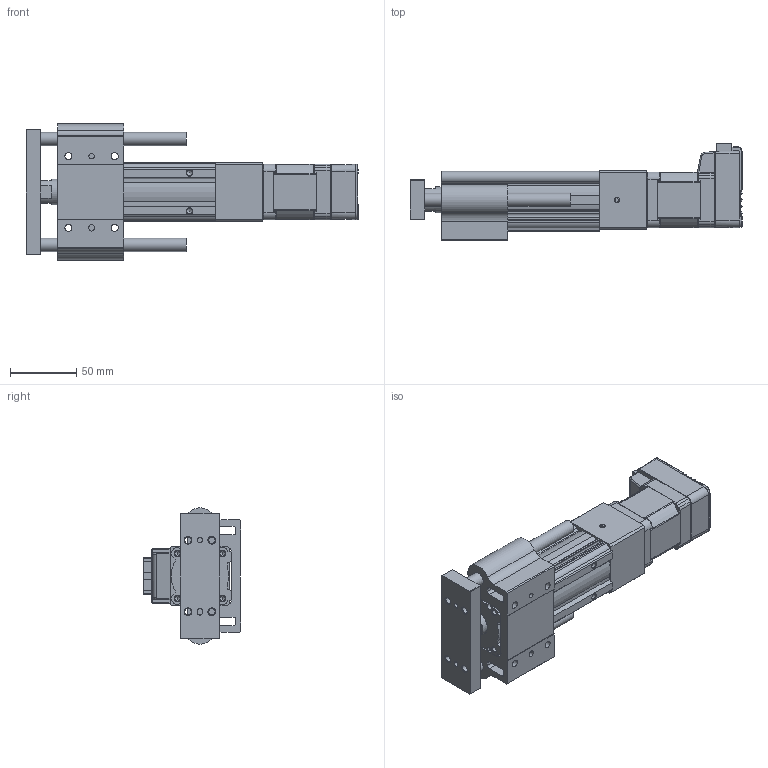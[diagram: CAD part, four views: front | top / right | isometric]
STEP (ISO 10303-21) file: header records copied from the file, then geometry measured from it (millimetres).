
FILE_DESCRIPTION (( 'STEP AP214' ), '1' );
FILE_NAME ('LEYG3(+)-25LDNM1□-30-17L.STEP', '2023-04-10T04:36:16', ( '' ), ( '' ), 'SwSTEP 2.0', 'SolidWorks 2019', '' );
FILE_SCHEMA (( 'AUTOMOTIVE_DESIGN' ));
Length unit declared in the file: millimetre
Products named in the file (6): CM3(+)-17L50A; LEYG3(+)-25□DNM1_MOTOR Flange; LEYG3(+)-25LNM1?_ROD_30; LEYG3(+)-25LNM1□_ATTACH_30; LEYG3(+)-25LDNM1□-30-17L; LEYG3(+)-25NM1?_BODY_30
Assembly tree (5 placements, depth 2):
  LEYG3(+)-25LDNM1□-30-17L
    LEYG3(+)-25NM1?_BODY_30
    LEYG3(+)-25LNM1?_ROD_30
    LEYG3(+)-25LNM1□_ATTACH_30
    LEYG3(+)-25□DNM1_MOTOR Flange
    CM3(+)-17L50A
Bounding box: 250.8 x 73.55 x 103 mm (x, y, z)
Volume: 544571.4 mm3; surface area: 121579.8 mm2
Topology: 5 solids, 5 shells, 940 faces, 2388 edges, 1501 vertices
Faces by surface type: plane 499, cylinder 272, cone 90, bspline 29, torus 29, sphere 21
Full cylindrical faces by diameter (mm): 2.5 x4, 3.5 x4, 4 x2, 4.2 x2, 4.9 x4, 5 x1, 5.4 x4, 8 x1, 10 x2, 11 x1, 22 x1, 33 x1
Entity records: 39054 total; most frequent: CARTESIAN_POINT 6846, ORIENTED_EDGE 4620, DIRECTION 4489, EDGE_CURVE 2310, AXIS2_PLACEMENT_3D 1502, VERTEX_POINT 1494, VECTOR 1485, LINE 1485
